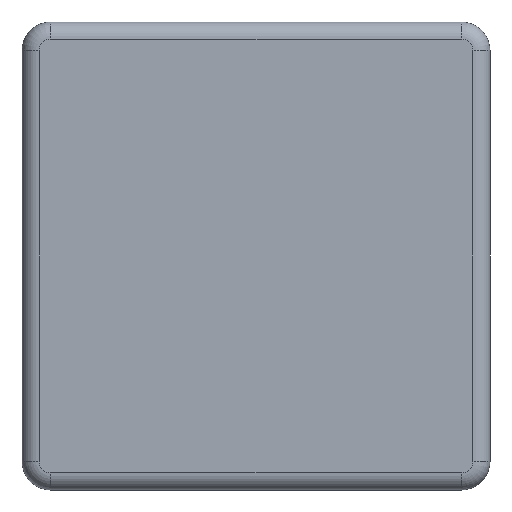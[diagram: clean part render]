
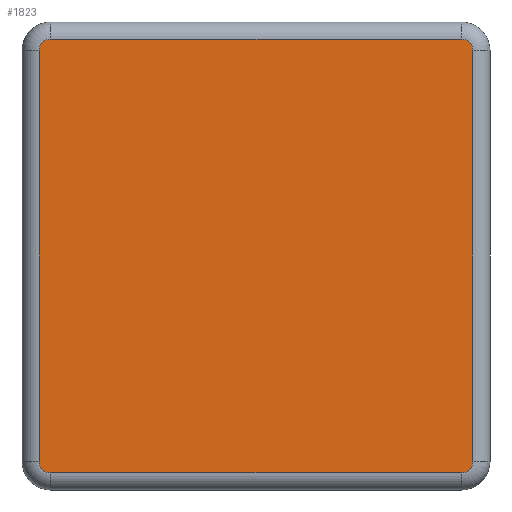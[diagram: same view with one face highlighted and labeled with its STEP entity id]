
A CAD part, left-side view. The second image highlights one B-rep face of the part: STEP entity #1823.
In plain terms, the highlighted planar face has unit normal (-1, 0, 0).
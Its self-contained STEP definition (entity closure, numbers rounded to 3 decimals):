
#1 = ORIENTED_EDGE ( 'NONE', *, *, #2156, .T. ) ;
#18 = VECTOR ( 'NONE', #800, 1000. ) ;
#20 = EDGE_LOOP ( 'NONE', ( #1987, #1, #697, #959, #1467, #393, #259, #525 ) ) ;
#37 = CARTESIAN_POINT ( 'NONE',  ( 0., 18., -19. ) ) ;
#40 = CARTESIAN_POINT ( 'NONE',  ( 0., -18., 19. ) ) ;
#43 = CIRCLE ( 'NONE', #878, 1. ) ;
#73 = VERTEX_POINT ( 'NONE', #153 ) ;
#119 = DIRECTION ( 'NONE',  ( 0., 0., -1. ) ) ;
#127 = DIRECTION ( 'NONE',  ( -1., 0., 0. ) ) ;
#153 = CARTESIAN_POINT ( 'NONE',  ( 0., 18., 19. ) ) ;
#259 = ORIENTED_EDGE ( 'NONE', *, *, #1112, .T. ) ;
#264 = CARTESIAN_POINT ( 'NONE',  ( 0., -18., 18. ) ) ;
#382 = LINE ( 'NONE', #1197, #2379 ) ;
#393 = ORIENTED_EDGE ( 'NONE', *, *, #2557, .T. ) ;
#437 = DIRECTION ( 'NONE',  ( 0., 1., 0. ) ) ;
#449 = CIRCLE ( 'NONE', #2248, 1. ) ;
#525 = ORIENTED_EDGE ( 'NONE', *, *, #702, .T. ) ;
#564 = VERTEX_POINT ( 'NONE', #1166 ) ;
#643 = CARTESIAN_POINT ( 'NONE',  ( 0., -18., -19. ) ) ;
#693 = PLANE ( 'NONE',  #1809 ) ;
#696 = CARTESIAN_POINT ( 'NONE',  ( 0., 19., 18. ) ) ;
#697 = ORIENTED_EDGE ( 'NONE', *, *, #1638, .T. ) ;
#702 = EDGE_CURVE ( 'NONE', #1542, #2382, #382, .T. ) ;
#707 = DIRECTION ( 'NONE',  ( 0., 0., -1. ) ) ;
#723 = VECTOR ( 'NONE', #437, 1000. ) ;
#800 = DIRECTION ( 'NONE',  ( 0., 0., -1. ) ) ;
#814 = CARTESIAN_POINT ( 'NONE',  ( 0., -18., 19. ) ) ;
#852 = FACE_OUTER_BOUND ( 'NONE', #20, .T. ) ;
#878 = AXIS2_PLACEMENT_3D ( 'NONE', #2105, #2520, #2291 ) ;
#959 = ORIENTED_EDGE ( 'NONE', *, *, #2423, .T. ) ;
#1013 = CARTESIAN_POINT ( 'NONE',  ( 0., 18., 18. ) ) ;
#1112 = EDGE_CURVE ( 'NONE', #1615, #1542, #449, .T. ) ;
#1156 = DIRECTION ( 'NONE',  ( -1., 0., 0. ) ) ;
#1166 = CARTESIAN_POINT ( 'NONE',  ( 0., -19., 18. ) ) ;
#1197 = CARTESIAN_POINT ( 'NONE',  ( 0., -18., -19. ) ) ;
#1268 = CIRCLE ( 'NONE', #2334, 1. ) ;
#1427 = CARTESIAN_POINT ( 'NONE',  ( 0., 19., 18. ) ) ;
#1467 = ORIENTED_EDGE ( 'NONE', *, *, #2508, .T. ) ;
#1497 = LINE ( 'NONE', #2456, #2513 ) ;
#1514 = CARTESIAN_POINT ( 'NONE',  ( 0., 19., -18. ) ) ;
#1542 = VERTEX_POINT ( 'NONE', #37 ) ;
#1596 = LINE ( 'NONE', #1427, #18 ) ;
#1608 = EDGE_CURVE ( 'NONE', #2382, #1926, #43, .T. ) ;
#1615 = VERTEX_POINT ( 'NONE', #1514 ) ;
#1638 = EDGE_CURVE ( 'NONE', #564, #2553, #1268, .T. ) ;
#1788 = CARTESIAN_POINT ( 'NONE',  ( 0., -18., 18. ) ) ;
#1809 = AXIS2_PLACEMENT_3D ( 'NONE', #264, #2270, #119 ) ;
#1823 = ADVANCED_FACE ( 'NONE', ( #852 ), #693, .F. ) ;
#1833 = LINE ( 'NONE', #40, #723 ) ;
#1926 = VERTEX_POINT ( 'NONE', #2495 ) ;
#1934 = AXIS2_PLACEMENT_3D ( 'NONE', #1013, #2565, #2189 ) ;
#1987 = ORIENTED_EDGE ( 'NONE', *, *, #1608, .T. ) ;
#2034 = DIRECTION ( 'NONE',  ( 0., -1., 0. ) ) ;
#2052 = CIRCLE ( 'NONE', #1934, 1. ) ;
#2105 = CARTESIAN_POINT ( 'NONE',  ( 0., -18., -18. ) ) ;
#2151 = VERTEX_POINT ( 'NONE', #696 ) ;
#2156 = EDGE_CURVE ( 'NONE', #1926, #564, #1497, .T. ) ;
#2189 = DIRECTION ( 'NONE',  ( 0., 0., -1. ) ) ;
#2248 = AXIS2_PLACEMENT_3D ( 'NONE', #2322, #1156, #707 ) ;
#2270 = DIRECTION ( 'NONE',  ( 1., 0., 0. ) ) ;
#2273 = DIRECTION ( 'NONE',  ( 0., 0., 1. ) ) ;
#2291 = DIRECTION ( 'NONE',  ( 0., 0., -1. ) ) ;
#2322 = CARTESIAN_POINT ( 'NONE',  ( 0., 18., -18. ) ) ;
#2334 = AXIS2_PLACEMENT_3D ( 'NONE', #1788, #127, #2534 ) ;
#2379 = VECTOR ( 'NONE', #2034, 1000. ) ;
#2382 = VERTEX_POINT ( 'NONE', #643 ) ;
#2423 = EDGE_CURVE ( 'NONE', #2553, #73, #1833, .T. ) ;
#2456 = CARTESIAN_POINT ( 'NONE',  ( 0., -19., 18. ) ) ;
#2495 = CARTESIAN_POINT ( 'NONE',  ( 0., -19., -18. ) ) ;
#2508 = EDGE_CURVE ( 'NONE', #73, #2151, #2052, .T. ) ;
#2513 = VECTOR ( 'NONE', #2273, 1000. ) ;
#2520 = DIRECTION ( 'NONE',  ( -1., 0., 0. ) ) ;
#2534 = DIRECTION ( 'NONE',  ( 0., 0., -1. ) ) ;
#2553 = VERTEX_POINT ( 'NONE', #814 ) ;
#2557 = EDGE_CURVE ( 'NONE', #2151, #1615, #1596, .T. ) ;
#2565 = DIRECTION ( 'NONE',  ( -1., 0., 0. ) ) ;
